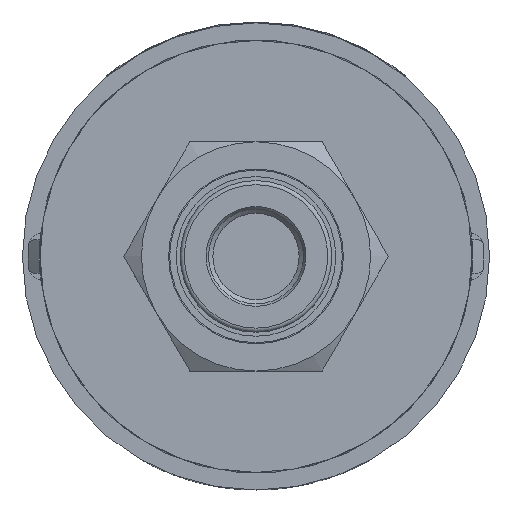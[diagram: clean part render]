
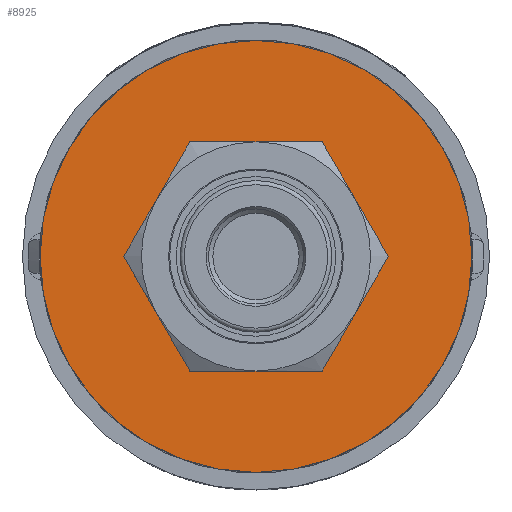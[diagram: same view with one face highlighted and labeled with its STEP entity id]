
A CAD part, front view. The second image highlights one B-rep face of the part: STEP entity #8925.
In plain terms, the highlighted planar face has unit normal (0, -1, 0).
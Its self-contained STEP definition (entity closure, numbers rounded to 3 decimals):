
#1835=FACE_BOUND('',#2586,.T.);
#2061=FACE_OUTER_BOUND('',#2585,.T.);
#2585=EDGE_LOOP('',(#6346));
#2586=EDGE_LOOP('',(#6347));
#3147=CIRCLE('',#9636,6.35);
#3150=CIRCLE('',#9641,25.425);
#3674=VERTEX_POINT('',#13886);
#3677=VERTEX_POINT('',#13895);
#4667=EDGE_CURVE('',#3674,#3674,#3147,.T.);
#4671=EDGE_CURVE('',#3677,#3677,#3150,.T.);
#6346=ORIENTED_EDGE('',*,*,#4671,.F.);
#6347=ORIENTED_EDGE('',*,*,#4667,.F.);
#8104=PLANE('',#9640);
#8925=ADVANCED_FACE('',(#2061,#1835),#8104,.T.);
#9636=AXIS2_PLACEMENT_3D('',#13887,#11026,#11027);
#9640=AXIS2_PLACEMENT_3D('',#13894,#11035,#11036);
#9641=AXIS2_PLACEMENT_3D('',#13896,#11037,#11038);
#11026=DIRECTION('center_axis',(0.,-1.,0.));
#11027=DIRECTION('ref_axis',(-1.,0.,0.));
#11035=DIRECTION('center_axis',(0.,-1.,0.));
#11036=DIRECTION('ref_axis',(1.,0.,0.));
#11037=DIRECTION('center_axis',(0.,1.,0.));
#11038=DIRECTION('ref_axis',(0.,0.,
-1.));
#13886=CARTESIAN_POINT('',(42.905,86.568,-26.828));
#13887=CARTESIAN_POINT('Origin',(36.555,86.568,-26.828));
#13894=CARTESIAN_POINT('Origin',(36.555,86.568,-42.74));
#13895=CARTESIAN_POINT('',(36.555,86.568,-1.403));
#13896=CARTESIAN_POINT('Origin',(36.555,86.568,-26.828));
